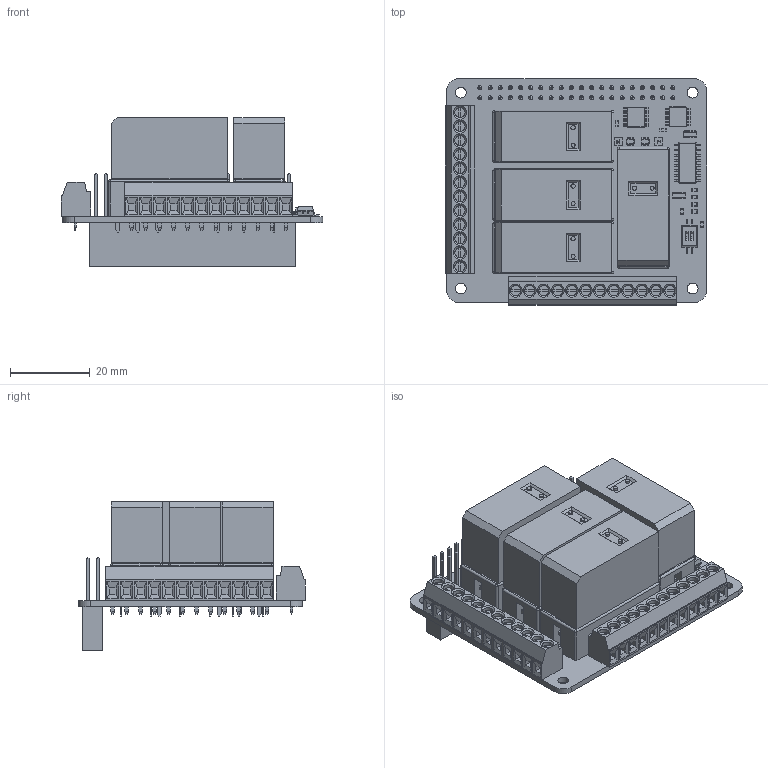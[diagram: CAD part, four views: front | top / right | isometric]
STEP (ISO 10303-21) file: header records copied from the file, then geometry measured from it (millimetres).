
FILE_DESCRIPTION(('FreeCAD Model'),'2;1');
FILE_NAME('Open CASCADE Shape Model','2026-04-28T23:28:08',(''),(''), 'Open CASCADE STEP processor 7.8','FreeCAD','Unknown');
FILE_SCHEMA(('AUTOMOTIVE_DESIGN { 1 0 10303 214 1 1 1 1 }'));
Length unit declared in the file: millimetre
Products named in the file (8): AQEX-qReCon-Flex; Components; qReCon_Flex_PCB; Relays; Relay1; Relay2; Relay3; Relay4
Assembly tree (7 placements, depth 3):
  AQEX-qReCon-Flex
    Components
    qReCon_Flex_PCB
    Relays
      Relay1
      Relay2
      Relay3
      Relay4
Bounding box: 65.34 x 56.69 x 37.26 mm (x, y, z)
Volume: 45502.1 mm3; surface area: 34118.6 mm2
Topology: 86 solids, 86 shells, 4226 faces, 10689 edges, 6866 vertices
Faces by surface type: plane 3400, cylinder 678, bspline 84, cone 48, sphere 16
Full cylindrical faces by diameter (mm): 0.104 x2, 1 x40, 1.1 x24, 2.54 x24, 2.7 x4, 3.2 x4, 5.6 x4
Entity records: 127177 total; most frequent: CARTESIAN_POINT 23007, ORIENTED_EDGE 21346, DIRECTION 20279, EDGE_CURVE 10673, LINE 8939, VECTOR 8939, VERTEX_POINT 6866, AXIS2_PLACEMENT_3D 5670
